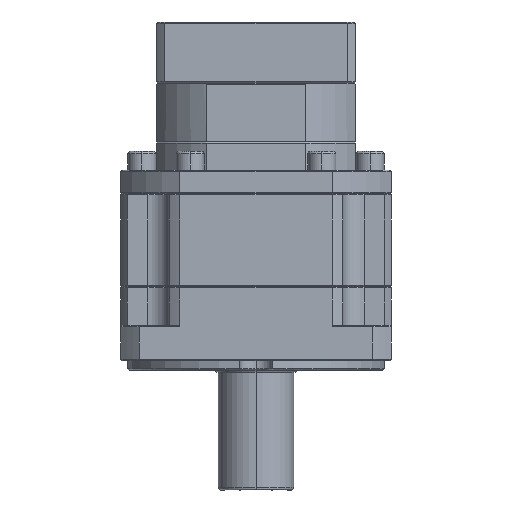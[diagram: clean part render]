
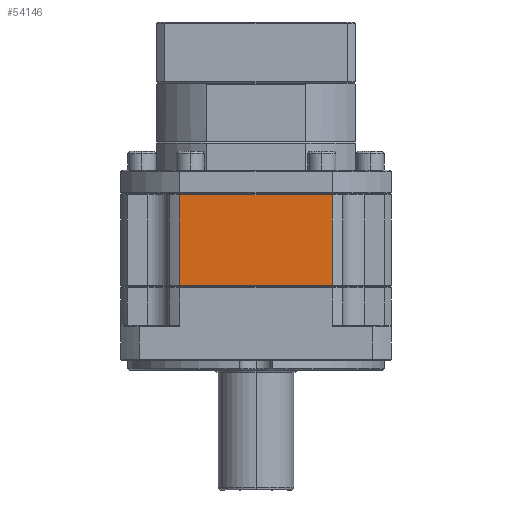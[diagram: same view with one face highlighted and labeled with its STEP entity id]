
A CAD part, front view. The second image highlights one B-rep face of the part: STEP entity #54146.
In plain terms, the highlighted planar face has unit normal (0, -1, 0).
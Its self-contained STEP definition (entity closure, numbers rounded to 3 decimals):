
#1077 = DIRECTION ( 'NONE',  ( -1., 0., 0. ) ) ;
#1900 = CARTESIAN_POINT ( 'NONE',  ( -73.058, -21.99, -77. ) ) ;
#6810 = EDGE_CURVE ( 'NONE', #7985, #26109, #35692, .T. ) ;
#7985 = VERTEX_POINT ( 'NONE', #33489 ) ;
#9006 = EDGE_CURVE ( 'NONE', #112351, #23697, #101334, .T. ) ;
#18844 = VECTOR ( 'NONE', #40861, 1000. ) ;
#20232 = ORIENTED_EDGE ( 'NONE', *, *, #9006, .F. ) ;
#20791 = DIRECTION ( 'NONE',  ( 0., 0., -1. ) ) ;
#22325 = CARTESIAN_POINT ( 'NONE',  ( -15.558, -21.99, -115.5 ) ) ;
#23697 = VERTEX_POINT ( 'NONE', #110228 ) ;
#26109 = VERTEX_POINT ( 'NONE', #58661 ) ;
#29279 = EDGE_CURVE ( 'NONE', #23697, #7985, #43828, .T. ) ;
#29421 = VECTOR ( 'NONE', #20791, 1000. ) ;
#33489 = CARTESIAN_POINT ( 'NONE',  ( -105.458, -21.99, -115.5 ) ) ;
#35692 = LINE ( 'NONE', #42785, #82721 ) ;
#40861 = DIRECTION ( 'NONE',  ( -1., 0., 0. ) ) ;
#42785 = CARTESIAN_POINT ( 'NONE',  ( -105.458, -21.99, -76.5 ) ) ;
#43828 = LINE ( 'NONE', #22325, #18844 ) ;
#51157 = ORIENTED_EDGE ( 'NONE', *, *, #29279, .F. ) ;
#54146 = ADVANCED_FACE ( 'NONE', ( #101869 ), #75910, .F. ) ;
#56456 = VECTOR ( 'NONE', #77122, 1000. ) ;
#57378 = DIRECTION ( 'NONE',  ( 0., 1., 0. ) ) ;
#58661 = CARTESIAN_POINT ( 'NONE',  ( -105.458, -21.99, -77. ) ) ;
#61663 = DIRECTION ( 'NONE',  ( 0., 0., 1. ) ) ;
#68258 = LINE ( 'NONE', #1900, #56456 ) ;
#75910 = PLANE ( 'NONE',  #99346 ) ;
#77122 = DIRECTION ( 'NONE',  ( 1., 0., 0. ) ) ;
#81180 = ORIENTED_EDGE ( 'NONE', *, *, #6810, .F. ) ;
#82721 = VECTOR ( 'NONE', #61663, 1000. ) ;
#94623 = EDGE_LOOP ( 'NONE', ( #51157, #20232, #118783, #81180 ) ) ;
#99346 = AXIS2_PLACEMENT_3D ( 'NONE', #113555, #57378, #1077 ) ;
#101334 = LINE ( 'NONE', #106499, #29421 ) ;
#101869 = FACE_OUTER_BOUND ( 'NONE', #94623, .T. ) ;
#103783 = EDGE_CURVE ( 'NONE', #26109, #112351, #68258, .T. ) ;
#106499 = CARTESIAN_POINT ( 'NONE',  ( -40.658, -21.99, -304.543 ) ) ;
#106904 = CARTESIAN_POINT ( 'NONE',  ( -40.658, -21.99, -77. ) ) ;
#110228 = CARTESIAN_POINT ( 'NONE',  ( -40.658, -21.99, -115.5 ) ) ;
#112351 = VERTEX_POINT ( 'NONE', #106904 ) ;
#113555 = CARTESIAN_POINT ( 'NONE',  ( -15.558, -21.99, -76.5 ) ) ;
#118783 = ORIENTED_EDGE ( 'NONE', *, *, #103783, .F. ) ;
